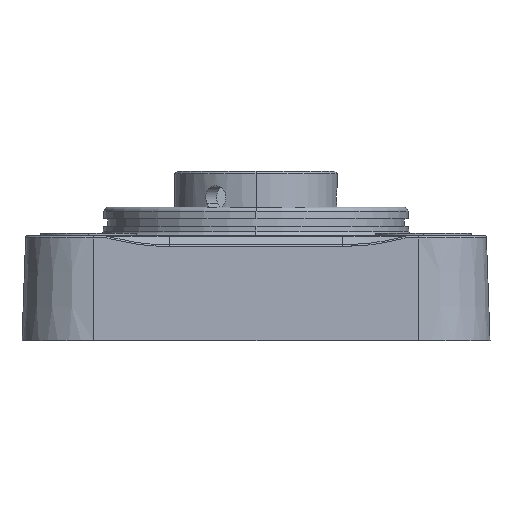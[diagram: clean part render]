
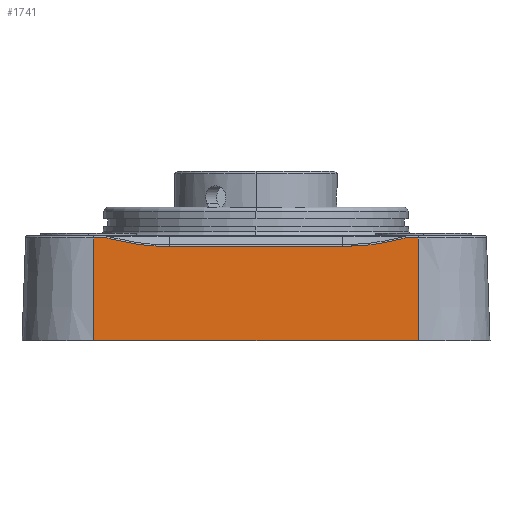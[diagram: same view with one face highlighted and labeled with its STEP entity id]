
A CAD part, left-side view. The second image highlights one B-rep face of the part: STEP entity #1741.
In plain terms, the highlighted planar face has unit normal (-0.999, 0, 0.035).
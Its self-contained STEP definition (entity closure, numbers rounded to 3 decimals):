
#1231=CARTESIAN_POINT('Vertex',(-48.965,34.,1.)) ;
#1234=CARTESIAN_POINT('Line Origine',(-48.598,34.,11.5)) ;
#1238=CARTESIAN_POINT('Vertex',(-48.214,34.,22.517)) ;
#1644=CARTESIAN_POINT('Vertex',(-48.965,-34.,1.)) ;
#1651=CARTESIAN_POINT('Vertex',(-48.214,-34.,22.517)) ;
#1654=CARTESIAN_POINT('Line Origine',(-48.598,-34.,11.5)) ;
#1666=CARTESIAN_POINT('Axis2P3D Location',(-49.,0.,0.)) ;
#1671=CARTESIAN_POINT('Line Origine',(-48.965,0.,1.)) ;
#1676=CARTESIAN_POINT('Line Origine',(-48.214,0.,22.517)) ;
#1680=CARTESIAN_POINT('Vertex',(-48.214,-31.236,22.517)) ;
#1684=CARTESIAN_POINT('Control Point',(-48.214,-31.236,22.517)) ;
#1685=CARTESIAN_POINT('Control Point',(-48.215,-30.988,22.467)) ;
#1686=CARTESIAN_POINT('Control Point',(-48.217,-30.74,22.41)) ;
#1687=CARTESIAN_POINT('Control Point',(-48.22,-30.493,22.346)) ;
#1688=CARTESIAN_POINT('Vertex',(-48.22,-30.493,22.346)) ;
#1692=CARTESIAN_POINT('Control Point',(-48.276,-18.101,20.731)) ;
#1693=CARTESIAN_POINT('Control Point',(-48.276,-21.22,20.731)) ;
#1694=CARTESIAN_POINT('Control Point',(-48.266,-24.338,21.009)) ;
#1695=CARTESIAN_POINT('Control Point',(-48.247,-27.433,21.562)) ;
#1696=CARTESIAN_POINT('Control Point',(-48.22,-30.493,22.346)) ;
#1697=CARTESIAN_POINT('Vertex',(-48.276,-18.101,20.731)) ;
#1700=CARTESIAN_POINT('Line Origine',(-48.276,0.,20.731)) ;
#1704=CARTESIAN_POINT('Vertex',(-48.276,18.101,20.731)) ;
#1708=CARTESIAN_POINT('Control Point',(-48.22,30.493,22.346)) ;
#1709=CARTESIAN_POINT('Control Point',(-48.247,27.433,21.562)) ;
#1710=CARTESIAN_POINT('Control Point',(-48.266,24.338,21.009)) ;
#1711=CARTESIAN_POINT('Control Point',(-48.276,21.22,20.731)) ;
#1712=CARTESIAN_POINT('Control Point',(-48.276,18.101,20.731)) ;
#1713=CARTESIAN_POINT('Vertex',(-48.22,30.493,22.346)) ;
#1717=CARTESIAN_POINT('Control Point',(-48.22,30.493,22.346)) ;
#1718=CARTESIAN_POINT('Control Point',(-48.217,30.74,22.41)) ;
#1719=CARTESIAN_POINT('Control Point',(-48.215,30.988,22.467)) ;
#1720=CARTESIAN_POINT('Control Point',(-48.214,31.236,22.517)) ;
#1721=CARTESIAN_POINT('Vertex',(-48.214,31.236,22.517)) ;
#1724=CARTESIAN_POINT('Line Origine',(-48.214,0.,22.517)) ;
#1235=DIRECTION('Vector Direction',(-0.035,0.,-0.999)) ;
#1655=DIRECTION('Vector Direction',(-0.035,0.,-0.999)) ;
#1667=DIRECTION('Axis2P3D Direction',(0.999,0.,-0.035)) ;
#1668=DIRECTION('Axis2P3D XDirection',(0.,-1.,0.)) ;
#1672=DIRECTION('Vector Direction',(0.,-1.,0.)) ;
#1677=DIRECTION('Vector Direction',(0.,-1.,0.)) ;
#1701=DIRECTION('Vector Direction',(0.,-1.,0.)) ;
#1725=DIRECTION('Vector Direction',(0.,-1.,0.)) ;
#1669=AXIS2_PLACEMENT_3D('Plane Axis2P3D',#1666,#1667,#1668) ;
#1730=ORIENTED_EDGE('',*,*,#1675,.T.) ;
#1731=ORIENTED_EDGE('',*,*,#1658,.T.) ;
#1732=ORIENTED_EDGE('',*,*,#1682,.F.) ;
#1733=ORIENTED_EDGE('',*,*,#1690,.T.) ;
#1734=ORIENTED_EDGE('',*,*,#1699,.T.) ;
#1735=ORIENTED_EDGE('',*,*,#1706,.T.) ;
#1736=ORIENTED_EDGE('',*,*,#1715,.T.) ;
#1737=ORIENTED_EDGE('',*,*,#1723,.T.) ;
#1738=ORIENTED_EDGE('',*,*,#1728,.F.) ;
#1739=ORIENTED_EDGE('',*,*,#1240,.F.) ;
#1236=VECTOR('Line Direction',#1235,1.) ;
#1656=VECTOR('Line Direction',#1655,1.) ;
#1673=VECTOR('Line Direction',#1672,1.) ;
#1678=VECTOR('Line Direction',#1677,1.) ;
#1702=VECTOR('Line Direction',#1701,1.) ;
#1726=VECTOR('Line Direction',#1725,1.) ;
#1741=ADVANCED_FACE('PartBody',(#1740),#1670,.F.) ;
#1683=B_SPLINE_CURVE_WITH_KNOTS('',3,(#1684,#1685,#1686,#1687),.UNSPECIFIED.,.F.,.U.,(4,4),(26.354,27.529),.UNSPECIFIED.) ;
#1691=B_SPLINE_CURVE_WITH_KNOTS('',4,(#1692,#1693,#1694,#1695,#1696),.UNSPECIFIED.,.F.,.U.,(5,5),(35.968,53.439),.UNSPECIFIED.) ;
#1707=B_SPLINE_CURVE_WITH_KNOTS('',4,(#1708,#1709,#1710,#1711,#1712),.UNSPECIFIED.,.F.,.U.,(5,5),(18.498,35.968),.UNSPECIFIED.) ;
#1716=B_SPLINE_CURVE_WITH_KNOTS('',3,(#1717,#1718,#1719,#1720),.UNSPECIFIED.,.F.,.U.,(4,4),(61.988,63.163),.UNSPECIFIED.) ;
#1240=EDGE_CURVE('',#1232,#1239,#1237,.F.) ;
#1658=EDGE_CURVE('',#1645,#1652,#1657,.F.) ;
#1675=EDGE_CURVE('',#1232,#1645,#1674,.T.) ;
#1682=EDGE_CURVE('',#1681,#1652,#1679,.T.) ;
#1690=EDGE_CURVE('',#1681,#1689,#1683,.T.) ;
#1699=EDGE_CURVE('',#1689,#1698,#1691,.F.) ;
#1706=EDGE_CURVE('',#1698,#1705,#1703,.F.) ;
#1715=EDGE_CURVE('',#1705,#1714,#1707,.F.) ;
#1723=EDGE_CURVE('',#1714,#1722,#1716,.T.) ;
#1728=EDGE_CURVE('',#1239,#1722,#1727,.T.) ;
#1729=EDGE_LOOP('',(#1730,#1731,#1732,#1733,#1734,#1735,#1736,#1737,#1738,#1739)) ;
#1740=FACE_OUTER_BOUND('',#1729,.T.) ;
#1237=LINE('Line',#1234,#1236) ;
#1657=LINE('Line',#1654,#1656) ;
#1674=LINE('Line',#1671,#1673) ;
#1679=LINE('Line',#1676,#1678) ;
#1703=LINE('Line',#1700,#1702) ;
#1727=LINE('Line',#1724,#1726) ;
#1670=PLANE('',#1669) ;
#1232=VERTEX_POINT('',#1231) ;
#1239=VERTEX_POINT('',#1238) ;
#1645=VERTEX_POINT('',#1644) ;
#1652=VERTEX_POINT('',#1651) ;
#1681=VERTEX_POINT('',#1680) ;
#1689=VERTEX_POINT('',#1688) ;
#1698=VERTEX_POINT('',#1697) ;
#1705=VERTEX_POINT('',#1704) ;
#1714=VERTEX_POINT('',#1713) ;
#1722=VERTEX_POINT('',#1721) ;
